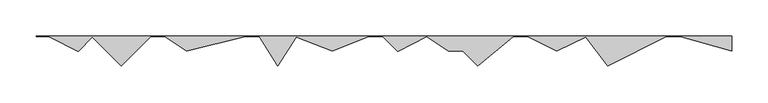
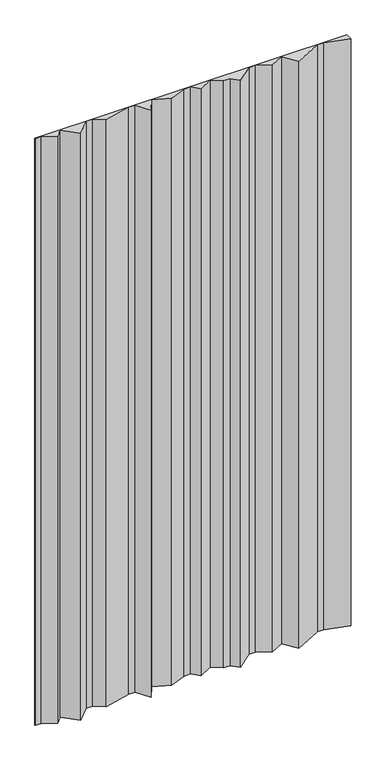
"""IFC4 building model written with IfcOpenShell, lengths in millimetres: plate geometry, ATELIERS 3S_GLACE PISSAILLAS 1000_VERTICAL : AZURO."""

import ifcopenshell
import ifcopenshell.guid

model = None  # the IFC model being written
_history = None  # IfcOwnerHistory: only IFC2X3 demands one
_inside = {}  # id of a spatial element -> (the spatial element, [elements in it])
_under = {}  # id of a project, library or spatial element -> (it, [spatial elements below it])
_declared = {}  # id of a project -> (the project, [libraries it declares])
_typed = {}  # id of a type object -> (the type object, [elements of that type])
_made_of = {}  # id of a material, layer set ... -> (it, [elements and type objects made of it])


def new_model(schema):
    """Start an empty IFC model of exactly this schema.

    Asked for "IFC4X3", IfcOpenShell would pick the latest addendum, in which some entities
    have other attributes; the version numbers below select the first issue.
    IFC2X3 requires an IfcOwnerHistory on every rooted entity: one is made here for all.
    """
    global model, _history
    if schema == "IFC4X3":
        model = ifcopenshell.file(schema_version=(4, 3, 0, 0))
    else:
        model = ifcopenshell.file(schema=schema)
    _inside.clear()
    _under.clear()
    _declared.clear()
    _typed.clear()
    _made_of.clear()
    _history = None
    if model.schema == "IFC2X3":
        org = make("IfcOrganization", Name="unknown")
        user = make(
            "IfcPersonAndOrganization",
            ThePerson=make("IfcPerson", FamilyName="unknown"),
            TheOrganization=org,
        )
        app = make(
            "IfcApplication",
            ApplicationDeveloper=org,
            Version="unknown",
            ApplicationFullName="unknown",
            ApplicationIdentifier="unknown",
        )
        _history = make(
            "IfcOwnerHistory",
            OwningUser=user,
            OwningApplication=app,
            ChangeAction="ADDED",
            CreationDate=0,
        )
    return model


def make(cls, **values):
    """One entity of the class cls with the attributes given. An attribute that is None is left unset."""
    return model.create_entity(
        cls, **{name: value for name, value in values.items() if value is not None}
    )


def rooted(cls, **values):
    """An entity with a GlobalId (a new one), such as an element, a storey or a relation."""
    return make(cls, GlobalId=ifcopenshell.guid.new(), OwnerHistory=_history, **values)


def si_unit(unit_type, name, prefix=None):
    """IfcSIUnit, for example si_unit("LENGTHUNIT", "METRE", prefix="MILLI")."""
    return make("IfcSIUnit", UnitType=unit_type, Prefix=prefix, Name=name)


def assignment(units):
    """IfcUnitAssignment: the units of a project."""
    return None if units is None else make("IfcUnitAssignment", Units=units)


def point(xyz):
    """IfcCartesianPoint."""
    return None if xyz is None else make("IfcCartesianPoint", Coordinates=xyz)


def direction(xyz):
    """IfcDirection."""
    return None if xyz is None else make("IfcDirection", DirectionRatios=xyz)


def frame(location, z_axis=None, x_axis=None):
    """IfcAxis2Placement3D, a coordinate frame: its origin and axes. An axis left out is left unset."""
    return make(
        "IfcAxis2Placement3D",
        Location=point(location),
        Axis=direction(z_axis),
        RefDirection=direction(x_axis),
    )


def origin():
    """The frame at (0, 0, 0) with its axes left unset."""
    return frame((0.0, 0.0, 0.0))


def origin_with_axes():
    """The frame at (0, 0, 0) with the z axis (0, 0, 1) and the x axis (1, 0, 0) written out."""
    return frame((0.0, 0.0, 0.0), z_axis=(0.0, 0.0, 1.0), x_axis=(1.0, 0.0, 0.0))


def place(relative_to, where):
    """IfcLocalPlacement: puts the frame where relative to a parent placement (None: the world)."""
    return make(
        "IfcLocalPlacement", PlacementRelTo=relative_to, RelativePlacement=where
    )


def context(
    kind, dimensions, precision=None, world=None, true_north=None, identifier=None
):
    """IfcGeometricRepresentationContext, for example the 3D "Model" context."""
    return make(
        "IfcGeometricRepresentationContext",
        ContextIdentifier=identifier,
        ContextType=kind,
        CoordinateSpaceDimension=dimensions,
        Precision=precision,
        WorldCoordinateSystem=world,
        TrueNorth=true_north,
    )


def project(units=None, contexts=None):
    """IfcProject with its units and contexts."""
    return rooted(
        "IfcProject",
        Name="project",
        RepresentationContexts=contexts,
        UnitsInContext=assignment(units),
    )


def spatial(cls, under=None, at=None, **own):
    """A site, building, storey or space (cls), placed at a placement, below another one or the project."""
    s = rooted(cls, ObjectPlacement=at, **own)
    if under is not None:
        _under.setdefault(under.id(), (under, []))[1].append(s)
    return s


def polyline(points):
    """IfcPolyline through the points."""
    return make("IfcPolyline", Points=[point(p) for p in points])


def outline(outer, holes=None, kind="AREA"):
    """IfcArbitraryClosedProfileDef: a profile drawn as a closed curve; with holes, ...WithVoids."""
    if holes is None:
        return make("IfcArbitraryClosedProfileDef", ProfileType=kind, OuterCurve=outer)
    return make(
        "IfcArbitraryProfileDefWithVoids",
        ProfileType=kind,
        OuterCurve=outer,
        InnerCurves=holes,
    )


def extrude(swept, where, along, depth):
    """IfcExtrudedAreaSolid: the profile swept, set in the frame where, extruded along a direction by depth."""
    return make(
        "IfcExtrudedAreaSolid",
        SweptArea=swept,
        Position=where,
        ExtrudedDirection=direction(along),
        Depth=depth,
    )


def shape(context_of_items, identifier, shape_type, items):
    """IfcShapeRepresentation: the items that make up one representation, for example the "Body"."""
    return make(
        "IfcShapeRepresentation",
        ContextOfItems=context_of_items,
        RepresentationIdentifier=identifier,
        RepresentationType=shape_type,
        Items=items,
    )


def source(mapping_origin, context_of_items, identifier, shape_type, items):
    """IfcRepresentationMap: a shape defined once, which mapped items show again and again."""
    return make(
        "IfcRepresentationMap",
        MappingOrigin=mapping_origin,
        MappedRepresentation=shape(context_of_items, identifier, shape_type, items),
    )


def transform(
    local_origin,
    x_axis=None,
    y_axis=None,
    z_axis=None,
    scale=None,
    scale2=None,
    scale3=None,
    uniform=True,
):
    """IfcCartesianTransformationOperator3D, or its non-uniform kind. x_axis, y_axis, z_axis: its Axis1, 2, 3."""
    if uniform:
        return make(
            "IfcCartesianTransformationOperator3D",
            Axis1=direction(x_axis),
            Axis2=direction(y_axis),
            LocalOrigin=point(local_origin),
            Scale=scale,
            Axis3=direction(z_axis),
        )
    return make(
        "IfcCartesianTransformationOperator3DnonUniform",
        Axis1=direction(x_axis),
        Axis2=direction(y_axis),
        LocalOrigin=point(local_origin),
        Scale=scale,
        Axis3=direction(z_axis),
        Scale2=scale2,
        Scale3=scale3,
    )


def mapped(mapping_source, mapping_target):
    """IfcMappedItem: shows the shape of a source again, moved by a transform."""
    return make(
        "IfcMappedItem", MappingSource=mapping_source, MappingTarget=mapping_target
    )


def made_of(thing, what):
    """Note that an element or type object is made of a material, layer set ...; save() writes the relation."""
    if what is not None:
        _made_of.setdefault(what.id(), (what, []))[1].append(thing)
    return thing


def element(
    cls,
    number,
    at=None,
    inside=None,
    cuts=None,
    type_object=None,
    material=None,
    context=None,
    identifier="Body",
    shape_type=None,
    held_by="IfcProductDefinitionShape",
    body=None,
    shapes=None,
    **own,
):
    """One element of the class cls, such as IfcWall. Its Tag is "e" and its number.

    at: its placement. inside: the storey or other place that contains it. cuts: it is an
    opening in that element (IfcRelVoidsElement). A single representation is given by context,
    identifier, shape_type and body (its items); several are given by shapes. held_by: the class
    of the entity that holds the representations. save() writes the other relations.
    """
    e = rooted(cls, Tag="e%d" % number, ObjectPlacement=at, **own)
    if body is not None:
        shapes = [shape(context, identifier, shape_type, body)]
    if shapes is not None:
        e.Representation = make(held_by, Representations=shapes)
    if inside is not None:
        _inside.setdefault(inside.id(), (inside, []))[1].append(e)
    if cuts is not None:
        rooted(
            "IfcRelVoidsElement", RelatingBuildingElement=cuts, RelatedOpeningElement=e
        )
    if type_object is not None:
        _typed.setdefault(type_object.id(), (type_object, []))[1].append(e)
    return made_of(e, material)


def aggregate(whole, parts):
    """IfcRelAggregates: a whole, such as a stair, and the parts it consists of."""
    return rooted("IfcRelAggregates", RelatingObject=whole, RelatedObjects=parts)


def save(model, path):
    """Write the relations noted so far, then the file.

    IfcRelAggregates (storeys below a building ...), IfcRelContainedInSpatialStructure (elements
    in a storey), IfcRelDefinesByType, IfcRelAssociatesMaterial and IfcRelDeclares: one each for
    every whole, place, type object, material and project.
    """
    for whole, parts in _under.values():
        aggregate(whole, parts)
    for where, things in _inside.values():
        rooted(
            "IfcRelContainedInSpatialStructure",
            RelatedElements=things,
            RelatingStructure=where,
        )
    for kind, things in _typed.values():
        rooted("IfcRelDefinesByType", RelatedObjects=things, RelatingType=kind)
    for what, things in _made_of.values():
        rooted("IfcRelAssociatesMaterial", RelatedObjects=things, RelatingMaterial=what)
    for by, libraries in _declared.values():
        rooted("IfcRelDeclares", RelatingContext=by, RelatedDefinitions=libraries)
    model.write(path)


def plate_ca21aa38(model_context):
    return source(origin(), model_context, "Body", "SweptSolid", [
        extrude(outline(polyline([(-461.1540465, -0.864757), (-478.2012583, -0.864757), (-478.2012583, 0.0), (478.2012583, 0.0), (478.2012583, -20.8096981), (407.6849849, -0.75), (387.9666368, -0.75), (307.5651452, -40.9507458), (277.5651452, -0.9507458), (237.7895858, -20.8385255), (197.6125348, -0.75), (178.0568381, -0.75), (128.7386616, -41.009736), (108.4789256, -20.75), (88.5625041, -20.75), (58.7357038, -0.8654665), (18.641496, -20.9125704), (-1.5210744, -0.75), (-21.0659774, -0.75), (-71.2104142, -20.8077747), (-120.906753, -0.9292392), (-146.2104142, -41.4150972), (-171.6260999, -0.75), (-191.118085, -0.75), (-271.3503839, -20.8080747), (-301.4374959, -0.75), (-320.899754, -0.75), (-361.2104142, -41.0606602), (-401.2049745, -1.0660999), (-420.6514142, -20.9135393), (-461.1540465, -0.864757)])), origin_with_axes(), (0.0, 0.0, 1.0), 1900.0),
    ])


if __name__ == "__main__":
    model = new_model("IFC4")
    model_context = context("Model", 3, world=origin())
    ifc_project = project(units=[si_unit("LENGTHUNIT", "METRE", prefix="MILLI")], contexts=[model_context])
    site = spatial("IfcSite", under=ifc_project)
    building = spatial("IfcBuilding", under=site)
    placement = place(None, origin())
    plate_shape = plate_ca21aa38(model_context)
    element("IfcPlate", 1, ObjectType="ATELIERS 3S_GLACE PISSAILLAS 1000_VERTICAL : AZURO", at=placement, inside=building, context=model_context, shape_type="MappedRepresentation", body=[
        mapped(plate_shape, transform((0.0, 0.0, 0.0), x_axis=(1.0, 0.0, 0.0), y_axis=(0.0, 1.0, 0.0), z_axis=(0.0, 0.0, 1.0))),
    ])
    save(model, "model.ifc")
